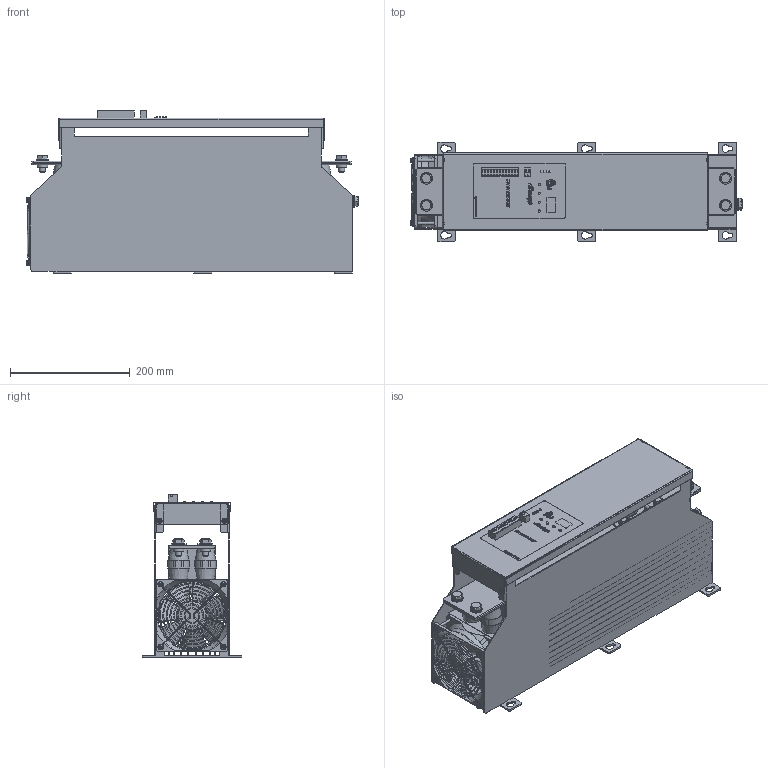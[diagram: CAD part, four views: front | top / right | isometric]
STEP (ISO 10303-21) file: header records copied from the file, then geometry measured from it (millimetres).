
FILE_DESCRIPTION(('STEP AP203'), '1');
FILE_NAME('ÒÐÌ 1Ì-720 RS485', '2025-06-05T05:02:21', (''), ('ÎÎÎ "Ìåàíäð"'), 'C3D Converter', 'C3D Toolkit', '');
FILE_SCHEMA(('CONFIG_CONTROL_DESIGN'));
Length unit declared in the file: millimetre
Products named in the file (6): M10x22
Assembly tree (12 placements, depth 3):
  (unnamed)
    (unnamed)
    (unnamed)
    (unnamed)  x5
      M10x22
    (unnamed)  x4
Bounding box: 554.8 x 167 x 271.4 mm (x, y, z)
Volume: 5961910.5 mm3; surface area: 2007161.2 mm2
Topology: 11 solids, 15 shells, 3915 faces, 11364 edges, 7448 vertices
Faces by surface type: plane 2261, extrusion 914, cylinder 514, bspline 88, torus 67, cone 63, sphere 8
Full cylindrical faces by diameter (mm): 2.459 x1, 3 x4, 3.3 x10, 4 x12, 4.2 x4, 4.572 x8, 4.917 x4, 6 x4, 6.1 x4, 6.917 x1, 8 x4, 8.4 x4, 9 x8, 9.1 x1, 10 x9, 10.01 x1, 11 x6, 11.6 x4, 15.6 x5, 16 x8, 17.35 x6, 20 x5, 28.5 x2, 31 x4, 38.1 x1, 115.062 x1, 118.662 x1
Entity records: 174190 total; most frequent: CARTESIAN_POINT 73047, ORIENTED_EDGE 21244, DIRECTION 15803, EDGE_CURVE 10622, VECTOR 7931, VERTEX_POINT 7079, LINE 7017, EDGE_LOOP 4095
